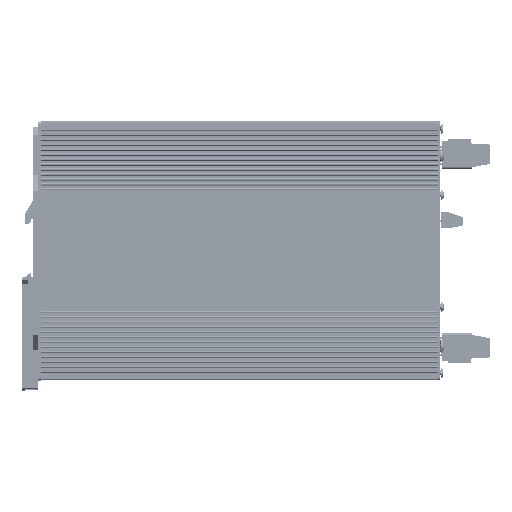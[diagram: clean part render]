
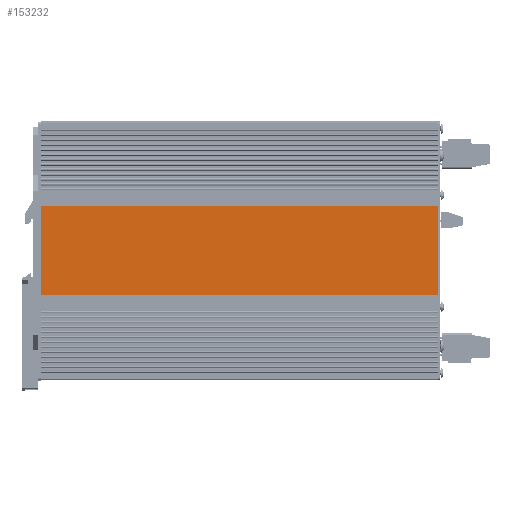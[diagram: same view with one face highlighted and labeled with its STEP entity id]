
A CAD part, top view. The second image highlights one B-rep face of the part: STEP entity #153232.
In plain terms, the highlighted planar face has unit normal (0, 0, 1) as drawn and (0, 0, -1) by its records, which use the part's own axes.
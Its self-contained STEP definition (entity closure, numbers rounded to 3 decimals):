
#22780=FACE_OUTER_BOUND('',#30808,.T.);
#30808=EDGE_LOOP('',(#127564,#127565,#127566,#127567));
#44431=LINE('',#257287,#56635);
#44432=LINE('',#257290,#56636);
#44433=LINE('',#257292,#56637);
#44434=LINE('',#257293,#56638);
#56635=VECTOR('',#203294,10.);
#56636=VECTOR('',#203297,10.);
#56637=VECTOR('',#203298,10.);
#56638=VECTOR('',#203299,10.);
#72102=VERTEX_POINT('',#257283);
#72103=VERTEX_POINT('',#257285);
#72104=VERTEX_POINT('',#257289);
#72105=VERTEX_POINT('',#257291);
#94048=EDGE_CURVE('',#72102,#72103,#44431,.T.);
#94049=EDGE_CURVE('',#72104,#72102,#44432,.T.);
#94050=EDGE_CURVE('',#72105,#72103,#44433,.T.);
#94051=EDGE_CURVE('',#72104,#72105,#44434,.T.);
#127564=ORIENTED_EDGE('',*,*,#94049,.T.);
#127565=ORIENTED_EDGE('',*,*,#94048,.T.);
#127566=ORIENTED_EDGE('',*,*,#94050,.F.);
#127567=ORIENTED_EDGE('',*,*,#94051,.F.);
#146308=PLANE('',#166519);
#153232=ADVANCED_FACE('',(#22780),#146308,.T.);
#166519=AXIS2_PLACEMENT_3D('',#257288,#203295,#203296);
#203294=DIRECTION('',(0.,1.,0.));
#203295=DIRECTION('center_axis',(0.,0.,-1.));
#203296=DIRECTION('ref_axis',(-1.,0.,0.));
#203297=DIRECTION('',(-1.,0.,0.));
#203298=DIRECTION('',(-1.,0.,0.));
#203299=DIRECTION('',(0.,1.,0.));
#257283=CARTESIAN_POINT('',(-146.17,0.,57.75));
#257285=CARTESIAN_POINT('',(-146.17,240.,57.75));
#257287=CARTESIAN_POINT('',(-146.17,0.,57.75));
#257288=CARTESIAN_POINT('Origin',(-92.67,0.,57.75));
#257289=CARTESIAN_POINT('',(-92.67,0.,57.75));
#257290=CARTESIAN_POINT('',(-88.32,0.,57.75));
#257291=CARTESIAN_POINT('',(-92.67,240.,57.75));
#257292=CARTESIAN_POINT('',(-88.32,240.,57.75));
#257293=CARTESIAN_POINT('',(-92.67,0.,57.75));
